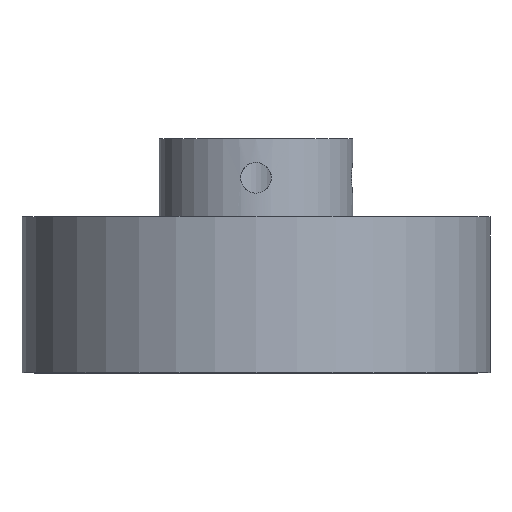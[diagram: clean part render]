
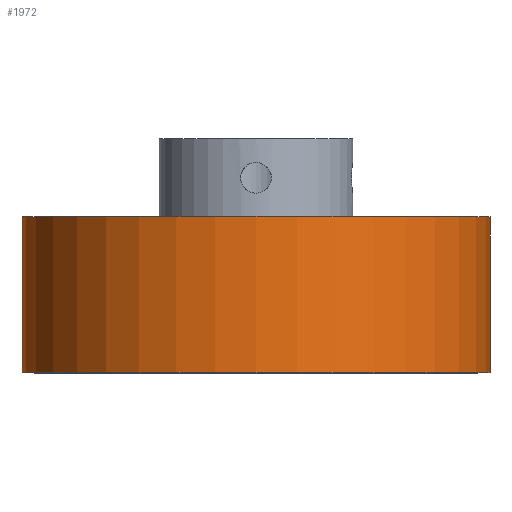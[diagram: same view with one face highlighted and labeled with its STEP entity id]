
A CAD part, top view. The second image highlights one B-rep face of the part: STEP entity #1972.
In plain terms, the highlighted cylindrical face has radius 38.1 mm (diameter 76.2 mm), a full revolution.
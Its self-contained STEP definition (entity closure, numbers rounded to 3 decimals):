
#268=FACE_OUTER_BOUND('',#362,.T.);
#362=EDGE_LOOP('',(#1617,#1618,#1619,#1620));
#548=LINE('',#3307,#694);
#694=VECTOR('',#2761,38.1);
#813=CIRCLE('',#2202,38.1);
#814=CIRCLE('',#2203,38.1);
#989=VERTEX_POINT('',#3304);
#990=VERTEX_POINT('',#3306);
#1258=EDGE_CURVE('',#989,#989,#813,.T.);
#1259=EDGE_CURVE('',#989,#990,#548,.T.);
#1260=EDGE_CURVE('',#990,#990,#814,.T.);
#1617=ORIENTED_EDGE('',*,*,#1258,.F.);
#1618=ORIENTED_EDGE('',*,*,#1259,.T.);
#1619=ORIENTED_EDGE('',*,*,#1260,.T.);
#1620=ORIENTED_EDGE('',*,*,#1259,.F.);
#1882=CYLINDRICAL_SURFACE('',#2201,38.1);
#1972=ADVANCED_FACE('',(#268),#1882,.T.);
#2201=AXIS2_PLACEMENT_3D('',#3303,#2757,#2758);
#2202=AXIS2_PLACEMENT_3D('',#3305,#2759,#2760);
#2203=AXIS2_PLACEMENT_3D('',#3308,#2762,#2763);
#2757=DIRECTION('center_axis',(0.,1.,0.));
#2758=DIRECTION('ref_axis',(-1.,0.,0.));
#2759=DIRECTION('center_axis',(0.,1.,0.));
#2760=DIRECTION('ref_axis',(-1.,0.,0.));
#2761=DIRECTION('',(0.,-1.,0.));
#2762=DIRECTION('center_axis',(0.,1.,0.));
#2763=DIRECTION('ref_axis',(-1.,0.,0.));
#3303=CARTESIAN_POINT('Origin',(0.,0.,0.));
#3304=CARTESIAN_POINT('',(38.1,25.4,0.));
#3305=CARTESIAN_POINT('Origin',(0.,25.4,0.));
#3306=CARTESIAN_POINT('',(38.1,0.,0.));
#3307=CARTESIAN_POINT('',(38.1,0.,0.));
#3308=CARTESIAN_POINT('Origin',(0.,0.,0.));
